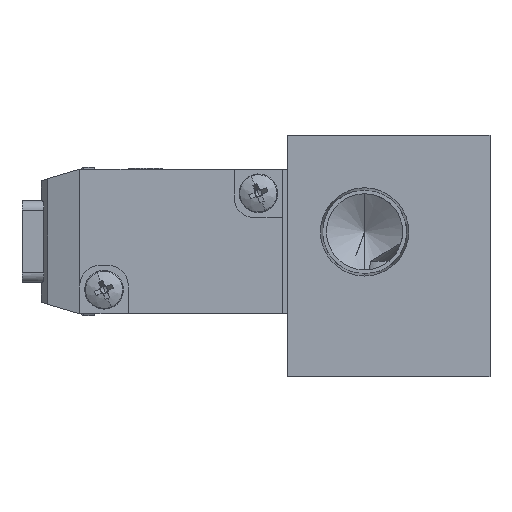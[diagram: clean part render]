
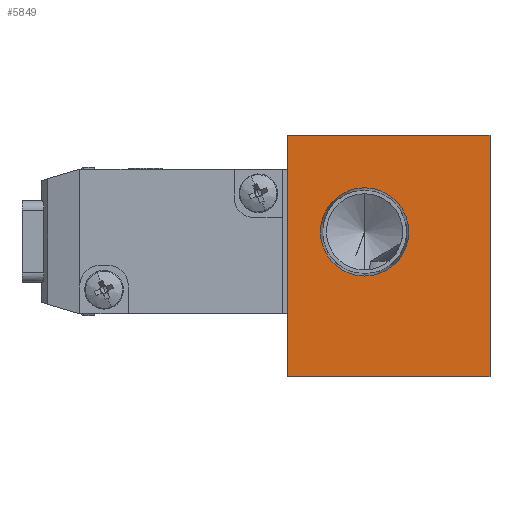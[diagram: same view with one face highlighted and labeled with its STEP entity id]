
A CAD part, left-side view. The second image highlights one B-rep face of the part: STEP entity #5849.
In plain terms, the highlighted planar face has unit normal (-1, 0, 0).
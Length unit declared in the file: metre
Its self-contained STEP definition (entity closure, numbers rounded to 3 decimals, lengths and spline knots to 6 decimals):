
#15 = VERTEX_POINT ( 'NONE', #7773 ) ;
#320 = ORIENTED_EDGE ( 'NONE', *, *, #10361, .F. ) ;
#354 = DIRECTION ( 'NONE',  ( 0., 1., 0. ) ) ;
#356 = VERTEX_POINT ( 'NONE', #8118 ) ;
#455 = EDGE_CURVE ( 'NONE', #4788, #15, #1629, .T. ) ;
#787 = ORIENTED_EDGE ( 'NONE', *, *, #6753, .F. ) ;
#797 = DIRECTION ( 'NONE',  ( 1., 0., 0. ) ) ;
#1072 = EDGE_LOOP ( 'NONE', ( #320, #2853, #787, #1940 ) ) ;
#1250 = CARTESIAN_POINT ( 'NONE',  ( -0.019, 0.0105, -0.0015 ) ) ;
#1514 = CARTESIAN_POINT ( 'NONE',  ( -0.019, -0.0105, 0.011 ) ) ;
#1629 = LINE ( 'NONE', #7602, #10309 ) ;
#1793 = VERTEX_POINT ( 'NONE', #5624 ) ;
#1940 = ORIENTED_EDGE ( 'NONE', *, *, #4729, .T. ) ;
#1992 = ORIENTED_EDGE ( 'NONE', *, *, #7809, .T. ) ;
#2538 = VECTOR ( 'NONE', #2871, 1. ) ;
#2618 = ORIENTED_EDGE ( 'NONE', *, *, #5632, .T. ) ;
#2853 = ORIENTED_EDGE ( 'NONE', *, *, #455, .F. ) ;
#2871 = DIRECTION ( 'NONE',  ( 0., 0., 1. ) ) ;
#2903 = VECTOR ( 'NONE', #5853, 1. ) ;
#3756 = CARTESIAN_POINT ( 'NONE',  ( -0.019, 0.0025, 0.005574 ) ) ;
#4120 = CARTESIAN_POINT ( 'NONE',  ( -0.019, 0.0025, 0.001 ) ) ;
#4130 = DIRECTION ( 'NONE',  ( 1., 0., 0. ) ) ;
#4145 = DIRECTION ( 'NONE',  ( 0., 0., 1. ) ) ;
#4391 = VERTEX_POINT ( 'NONE', #1514 ) ;
#4729 = EDGE_CURVE ( 'NONE', #4391, #356, #5030, .T. ) ;
#4788 = VERTEX_POINT ( 'NONE', #6774 ) ;
#5030 = LINE ( 'NONE', #5649, #2903 ) ;
#5154 = EDGE_LOOP ( 'NONE', ( #1992, #2618 ) ) ;
#5552 = CARTESIAN_POINT ( 'NONE',  ( -0.019, -0.0105, -0.0015 ) ) ;
#5623 = CARTESIAN_POINT ( 'NONE',  ( -0.019, 0.0025, 0.001 ) ) ;
#5624 = CARTESIAN_POINT ( 'NONE',  ( -0.019, 0.0025, -0.003574 ) ) ;
#5632 = EDGE_CURVE ( 'NONE', #1793, #9603, #8728, .T. ) ;
#5649 = CARTESIAN_POINT ( 'NONE',  ( -0.019, 0., 0.011 ) ) ;
#5694 = AXIS2_PLACEMENT_3D ( 'NONE', #5623, #797, #6436 ) ;
#5849 = ADVANCED_FACE ( 'NONE', ( #8861, #6654 ), #6408, .T. ) ;
#5853 = DIRECTION ( 'NONE',  ( 0., 1., 0. ) ) ;
#6366 = DIRECTION ( 'NONE',  ( 0., 0., -1. ) ) ;
#6408 = PLANE ( 'NONE',  #7117 ) ;
#6436 = DIRECTION ( 'NONE',  ( 0., 0., 1. ) ) ;
#6515 = CARTESIAN_POINT ( 'NONE',  ( -0.019, -0.0105, -0.014 ) ) ;
#6607 = DIRECTION ( 'NONE',  ( -1., 0., 0. ) ) ;
#6620 = DIRECTION ( 'NONE',  ( 0., 0., 1. ) ) ;
#6654 = FACE_OUTER_BOUND ( 'NONE', #1072, .T. ) ;
#6753 = EDGE_CURVE ( 'NONE', #4391, #4788, #10148, .T. ) ;
#6774 = CARTESIAN_POINT ( 'NONE',  ( -0.019, -0.0105, -0.014 ) ) ;
#6830 = LINE ( 'NONE', #1250, #2538 ) ;
#7117 = AXIS2_PLACEMENT_3D ( 'NONE', #6515, #6607, #6620 ) ;
#7602 = CARTESIAN_POINT ( 'NONE',  ( -0.019, 0., -0.014 ) ) ;
#7773 = CARTESIAN_POINT ( 'NONE',  ( -0.019, 0.0105, -0.014 ) ) ;
#7809 = EDGE_CURVE ( 'NONE', #9603, #1793, #8575, .T. ) ;
#7864 = AXIS2_PLACEMENT_3D ( 'NONE', #4120, #4130, #4145 ) ;
#8055 = VECTOR ( 'NONE', #6366, 1. ) ;
#8118 = CARTESIAN_POINT ( 'NONE',  ( -0.019, 0.0105, 0.011 ) ) ;
#8575 = CIRCLE ( 'NONE', #5694, 0.004574 ) ;
#8728 = CIRCLE ( 'NONE', #7864, 0.004574 ) ;
#8861 = FACE_BOUND ( 'NONE', #5154, .T. ) ;
#9603 = VERTEX_POINT ( 'NONE', #3756 ) ;
#10148 = LINE ( 'NONE', #5552, #8055 ) ;
#10309 = VECTOR ( 'NONE', #354, 1. ) ;
#10361 = EDGE_CURVE ( 'NONE', #15, #356, #6830, .T. ) ;
